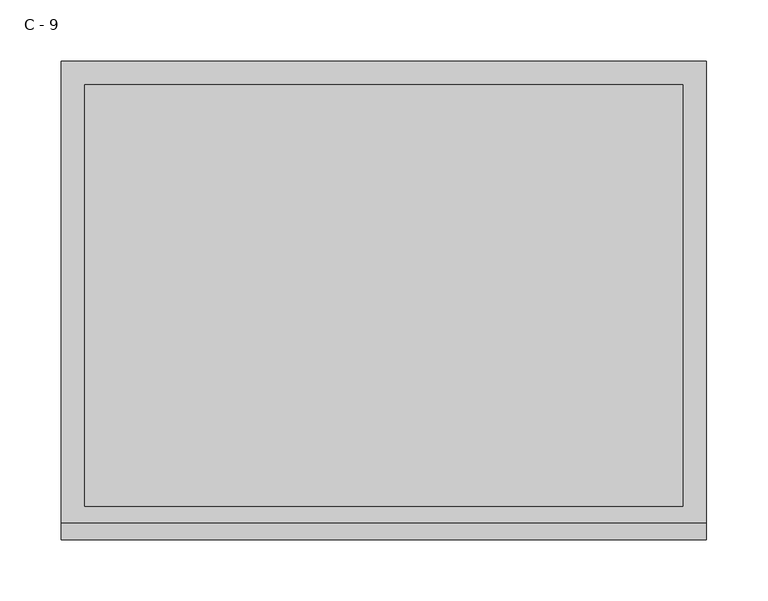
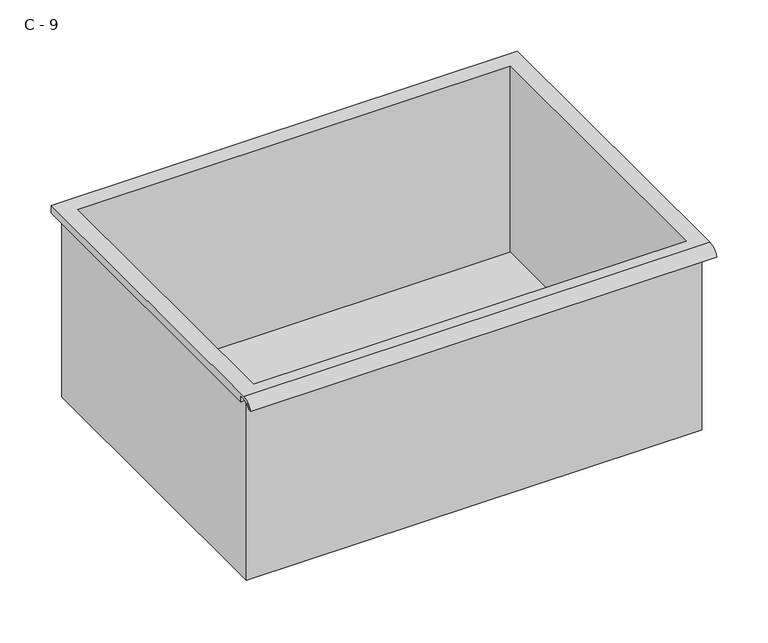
"""IFC4 building model written with IfcOpenShell, lengths in millimetres: furniture geometry, HermanMiller_CoStruc_CO207_Drawer : C - 9."""

from ifc_helpers import new_model, si_unit, frame, origin, place, context, project, spatial, polyline, circle_curve, source, transform, mapped, element, save
from ifc_brep_helpers import plane_surface, cylinder_surface, revolved_surface, advanced_brep


def c_9_607037d1(model_context):
    return source(origin(), model_context, "Body", "AdvancedBrep", [
        advanced_brep(
        [(-257.1076517, -176.2125, 204.8002), (257.2423483, -176.2125, 204.8002), (257.2423483, -176.2125, 420.7002), (263.5923483, -176.2125, 420.7002), (263.5923483, -176.2125, 427.0073341), (-263.4576517, -176.2125, 427.0073341), (-263.4576517, -176.2125, 420.7002), (-257.1076517, -176.2125, 420.7002), (257.2423483, 185.7375, 204.8002), (-257.1076517, 185.7375, 204.8002), (-257.1076517, 185.7375, 420.7002), (257.2423483, 185.7375, 420.7002), (263.5923483, -181.6070544, 430.2252), (263.5923483, 195.2625, 430.2252), (-263.4576517, 195.2625, 430.2252), (-263.4576517, -181.6070544, 430.2252), (244.5423483, -168.275, 430.2252), (-244.4076517, -168.275, 430.2252), (-244.4076517, 176.2125, 430.2252), (244.5423483, 176.2125, 430.2252), (263.5923483, -195.2625, 420.7002), (263.5923483, -191.8280601, 420.7002), (263.5923483, -180.4714815, 427.0073341), (263.5923483, 195.2625, 420.7002), (-263.4576517, 195.2625, 420.7002), (-263.4576517, -180.4714815, 427.0073341), (-263.4576517, -191.8280601, 420.7002), (-263.4576517, -195.2625, 420.7002), (-244.4076517, -168.275, 207.8263719), (244.5423483, -168.275, 207.8263719), (244.5423483, 176.2125, 207.8263719), (-244.4076517, 176.2125, 207.8263719)],
        [
            (0, 1),
            (1, 2),
            (2, 3),
            (3, 4),
            (4, 5),
            (5, 6),
            (6, 7),
            (7, 0),
            (8, 9),
            (9, 10),
            (10, 11),
            (11, 8),
            (0, 9),
            (8, 1),
            (11, 2),
            (12, 13),
            (13, 14),
            (14, 15),
            (15, 12),
            (16, 17),
            (17, 18),
            (18, 19),
            (19, 16),
            (7, 10),
            (12, 20, circle_curve(frame((263.5923483, -181.6070544, 415.6741859), z_axis=(1.0, 0.0, 0.0), x_axis=(0.0, 1.0, 0.0)), 14.5510141)),
            (20, 21),
            (21, 22, circle_curve(frame((263.5923483, -181.6070544, 415.6741859), z_axis=(-1.0, 0.0, 0.0), x_axis=(0.0, 1.0, 0.0)), 11.3898979)),
            (22, 4),
            (3, 23),
            (23, 13),
            (14, 24),
            (24, 6),
            (5, 25),
            (25, 26, circle_curve(frame((-263.4576517, -181.6070544, 415.6741859), z_axis=(1.0, 0.0, 0.0), x_axis=(0.0, 1.0, 0.0)), 11.3898979)),
            (26, 27),
            (27, 15, circle_curve(frame((-263.4576517, -181.6070544, 415.6741859), z_axis=(-1.0, 0.0, 0.0), x_axis=(0.0, 1.0, 0.0)), 14.5510141)),
            (27, 20),
            (26, 21),
            (25, 22),
            (24, 23),
            (28, 29),
            (29, 30),
            (30, 31),
            (31, 28),
            (28, 17),
            (16, 29),
            (19, 30),
            (18, 31),
        ],
        [
            plane_surface(frame((257.2423483, -176.2125, 204.8002), z_axis=(0.0, -1.0, 0.0), x_axis=(1.0, 0.0, 0.0))),
            plane_surface(frame((257.2423483, 185.7375, 204.8002), z_axis=(0.0, 1.0, 0.0), x_axis=(-1.0, 0.0, 0.0))),
            plane_surface(frame((-257.1076517, -176.2125, 204.8002), z_axis=(0.0, 0.0, -1.0), x_axis=(0.0, 1.0, 0.0))),
            plane_surface(frame((257.2423483, -176.2125, 204.8002), z_axis=(1.0, 0.0, 0.0), x_axis=(0.0, 1.0, 0.0))),
            plane_surface(frame((257.2423483, -176.2125, 430.2252), z_axis=(0.0, 0.0, 1.0), x_axis=(0.0, 1.0, 0.0))),
            plane_surface(frame((-257.1076517, -176.2125, 430.2252), z_axis=(-1.0, 0.0, 0.0), x_axis=(0.0, 1.0, 0.0))),
            plane_surface(frame((263.5923483, 195.2625, 430.2252), z_axis=(1.0, 0.0, 0.0), x_axis=(0.0, -1.0, 0.0))),
            plane_surface(frame((-263.4576517, 195.2625, 430.2252), z_axis=(-1.0, 0.0, 0.0), x_axis=(0.0, 1.0, 0.0))),
            cylinder_surface(frame((-263.4576517, -181.6070544, 415.6741859), z_axis=(1.0, 0.0, 0.0), x_axis=(0.0, 1.0, 0.0)), 14.5510141),
            plane_surface(frame((263.5923483, -195.2625, 420.7002), z_axis=(0.0, -7.251821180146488e-12, -1.0), x_axis=(-1.0, 0.0, 0.0))),
            revolved_surface(polyline([(-263.4576517, -170.21715650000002, 415.6741859), (263.59234829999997, -170.21715650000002, 415.6741859)]), (-263.4576517, -181.6070544, 415.6741859), (-1.0, 0.0, 0.0)),
            plane_surface(frame((263.5923483, -180.4714815, 427.0073341), z_axis=(0.0, -1.7909083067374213e-11, -1.0), x_axis=(-1.0, 0.0, 0.0))),
            plane_surface(frame((263.5923483, -176.2125, 420.7002), z_axis=(0.0, 0.0, -1.0), x_axis=(-1.0, 0.0, 0.0))),
            plane_surface(frame((263.5923483, 195.2625, 420.7002), z_axis=(0.0, 1.0, 0.0), x_axis=(-1.0, 0.0, 0.0))),
            plane_surface(frame((244.5423483, -168.275, 207.8263719), z_axis=(0.0, 0.0, 1.0), x_axis=(-1.0, 0.0, 0.0))),
            plane_surface(frame((-244.4076517, -168.275, 430.2252), z_axis=(0.0, 1.0, 0.0), x_axis=(0.0, 0.0, -1.0))),
            plane_surface(frame((244.5423483, -168.275, 430.2252), z_axis=(-1.0, 0.0, 0.0), x_axis=(0.0, 0.0, -1.0))),
            plane_surface(frame((244.5423483, 176.2125, 430.2252), z_axis=(0.0, -1.0, 0.0), x_axis=(0.0, 0.0, -1.0))),
            plane_surface(frame((-244.4076517, 176.2125, 430.2252), z_axis=(1.0, 0.0, 0.0), x_axis=(0.0, 0.0, -1.0))),
        ],
        [
            (0, [[1, 2, 3, 4, 5, 6, 7, 8]]),
            (1, [[9, 10, 11, 12]]),
            (2, [[-1, 13, -9, 14]]),
            (3, [[-14, -12, 15, -2]]),
            (4, [[16, 17, 18, 19], [20, 21, 22, 23]]),
            (5, [[-13, -8, 24, -10]]),
            (6, [[-16, 25, 26, 27, 28, -4, 29, 30]]),
            (7, [[31, 32, -6, 33, 34, 35, 36, -18]]),
            (8, [[-25, -19, -36, 37]]),
            (9, [[-26, -37, -35, 38]]),
            (10, [[-27, -38, -34, 39]]),
            (11, [[-28, -39, -33, -5]]),
            (12, [[-29, -3, -15, -11, -24, -7, -32, 40]]),
            (13, [[-30, -40, -31, -17]]),
            (14, [[41, 42, 43, 44]]),
            (15, [[-41, 45, -20, 46]]),
            (16, [[-42, -46, -23, 47]]),
            (17, [[-43, -47, -22, 48]]),
            (18, [[-44, -48, -21, -45]]),
        ],
    ),
    ])


if __name__ == "__main__":
    model = new_model("IFC4")
    model_context = context("Model", 3, world=origin())
    ifc_project = project(units=[si_unit("LENGTHUNIT", "METRE", prefix="MILLI")], contexts=[model_context])
    site = spatial("IfcSite", under=ifc_project)
    building = spatial("IfcBuilding", under=site)
    placement = place(None, origin())
    c_9_shape = c_9_607037d1(model_context)
    element("IfcFurniture", 1, ObjectType="HermanMiller_CoStruc_CO207_Drawer : C - 9", at=placement, inside=building, context=model_context, shape_type="MappedRepresentation", body=[
        mapped(c_9_shape, transform((0.0, 0.0, 0.0), x_axis=(1.0, 0.0, 0.0), y_axis=(0.0, 1.0, 0.0), z_axis=(0.0, 0.0, 1.0))),
    ])
    save(model, "model.ifc")
